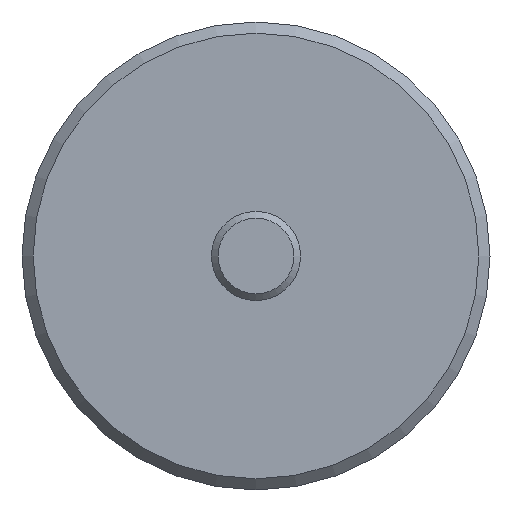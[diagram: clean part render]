
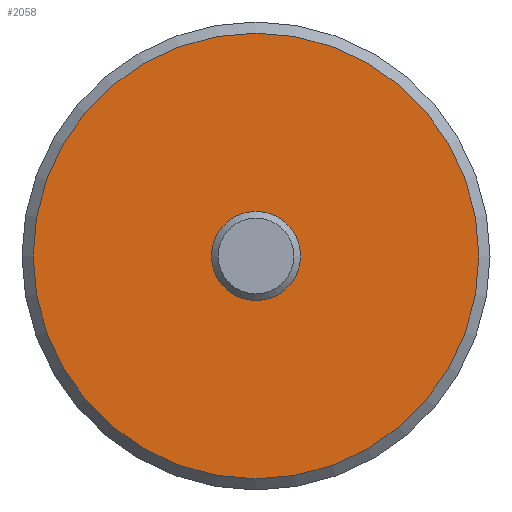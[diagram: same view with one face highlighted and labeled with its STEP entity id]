
A CAD part, left-side view. The second image highlights one B-rep face of the part: STEP entity #2058.
In plain terms, the highlighted planar face has unit normal (-1, 0, 0).
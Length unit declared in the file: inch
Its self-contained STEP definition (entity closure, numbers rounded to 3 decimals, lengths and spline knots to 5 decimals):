
#313=FACE_BOUND('',#479,.T.);
#356=FACE_OUTER_BOUND('',#478,.T.);
#478=EDGE_LOOP('',(#1366));
#479=EDGE_LOOP('',(#1367,#1368));
#629=CIRCLE('',#2227,0.14764);
#630=CIRCLE('',#2228,0.14764);
#633=CIRCLE('',#2233,0.7874);
#793=VERTEX_POINT('',#3170);
#794=VERTEX_POINT('',#3171);
#797=VERTEX_POINT('',#3182);
#1016=EDGE_CURVE('',#793,#794,#629,.T.);
#1017=EDGE_CURVE('',#794,#793,#630,.T.);
#1023=EDGE_CURVE('',#797,#797,#633,.T.);
#1366=ORIENTED_EDGE('',*,*,#1023,.F.);
#1367=ORIENTED_EDGE('',*,*,#1016,.T.);
#1368=ORIENTED_EDGE('',*,*,#1017,.T.);
#1874=PLANE('',#2237);
#2058=ADVANCED_FACE('',(#356,#313),#1874,.F.);
#2227=AXIS2_PLACEMENT_3D('',#3172,#2554,#2555);
#2228=AXIS2_PLACEMENT_3D('',#3173,#2556,#2557);
#2233=AXIS2_PLACEMENT_3D('',#3184,#2569,#2570);
#2237=AXIS2_PLACEMENT_3D('',#3191,#2578,#2579);
#2554=DIRECTION('center_axis',(1.,0.,0.));
#2555=DIRECTION('ref_axis',(0.,-1.,0.));
#2556=DIRECTION('center_axis',(1.,0.,0.));
#2557=DIRECTION('ref_axis',(0.,-1.,0.));
#2569=DIRECTION('center_axis',(1.,0.,0.));
#2570=DIRECTION('ref_axis',(0.,-1.,0.));
#2578=DIRECTION('center_axis',(1.,0.,0.));
#2579=DIRECTION('ref_axis',(0.,0.,1.));
#3170=CARTESIAN_POINT('',(-1.99853,0.13777,0.20053));
#3171=CARTESIAN_POINT('',(-1.99853,0.43304,0.20053));
#3172=CARTESIAN_POINT('Origin',(-1.99853,0.28541,0.20053));
#3173=CARTESIAN_POINT('Origin',(-1.99853,0.28541,0.20053));
#3182=CARTESIAN_POINT('',(-1.99853,1.07281,0.20053));
#3184=CARTESIAN_POINT('Origin',(-1.99853,0.28541,0.20053));
#3191=CARTESIAN_POINT('Origin',(-1.99853,0.28541,0.20053));
